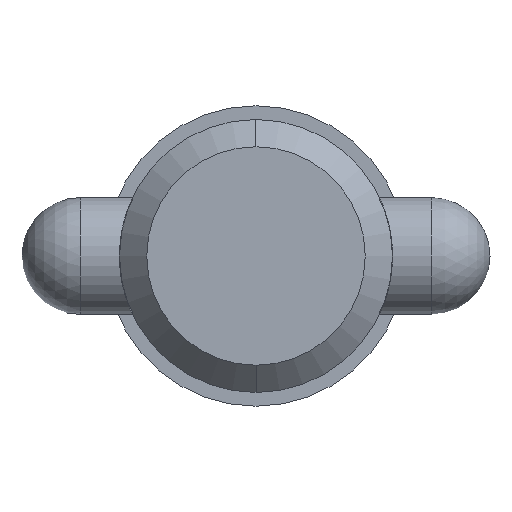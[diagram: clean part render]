
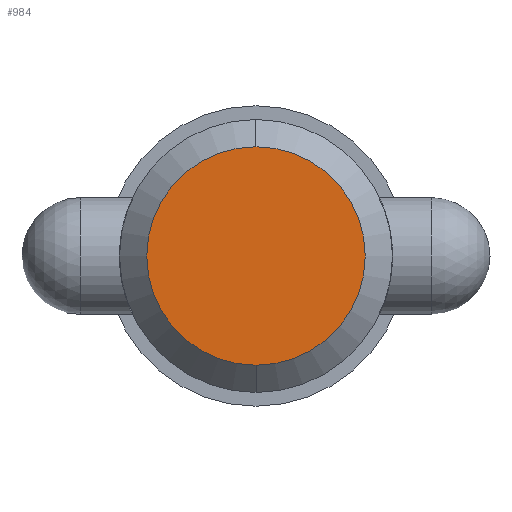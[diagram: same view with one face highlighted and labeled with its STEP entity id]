
A CAD part, left-side view. The second image highlights one B-rep face of the part: STEP entity #984.
In plain terms, the highlighted planar face has unit normal (-1, 0, 0).
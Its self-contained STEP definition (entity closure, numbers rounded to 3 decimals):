
#20 = PLANE ( 'NONE',  #342 ) ;
#46 = VERTEX_POINT ( 'NONE', #656 ) ;
#57 = ORIENTED_EDGE ( 'NONE', *, *, #931, .F. ) ;
#264 = ORIENTED_EDGE ( 'NONE', *, *, #411, .F. ) ;
#291 = CIRCLE ( 'NONE', #1030, 8.892 ) ;
#342 = AXIS2_PLACEMENT_3D ( 'NONE', #446, #769, #905 ) ;
#360 = CIRCLE ( 'NONE', #925, 8.892 ) ;
#411 = EDGE_CURVE ( 'NONE', #46, #415, #291, .T. ) ;
#415 = VERTEX_POINT ( 'NONE', #729 ) ;
#446 = CARTESIAN_POINT ( 'NONE',  ( 0., 0., 0. ) ) ;
#510 = FACE_OUTER_BOUND ( 'NONE', #768, .T. ) ;
#523 = DIRECTION ( 'NONE',  ( 0., 0., -1. ) ) ;
#553 = DIRECTION ( 'NONE',  ( 0., 0., -1. ) ) ;
#598 = DIRECTION ( 'NONE',  ( 1., 0., 0. ) ) ;
#635 = CARTESIAN_POINT ( 'NONE',  ( 0., 0., 0. ) ) ;
#656 = CARTESIAN_POINT ( 'NONE',  ( 0., 0., -8.892 ) ) ;
#729 = CARTESIAN_POINT ( 'NONE',  ( 0., 0., 8.892 ) ) ;
#756 = CARTESIAN_POINT ( 'NONE',  ( 0., 0., 0. ) ) ;
#768 = EDGE_LOOP ( 'NONE', ( #264, #57 ) ) ;
#769 = DIRECTION ( 'NONE',  ( -1., 0., 0. ) ) ;
#796 = DIRECTION ( 'NONE',  ( 1., 0., 0. ) ) ;
#905 = DIRECTION ( 'NONE',  ( 0., 0., 1. ) ) ;
#925 = AXIS2_PLACEMENT_3D ( 'NONE', #756, #598, #523 ) ;
#931 = EDGE_CURVE ( 'NONE', #415, #46, #360, .T. ) ;
#984 = ADVANCED_FACE ( 'NONE', ( #510 ), #20, .T. ) ;
#1030 = AXIS2_PLACEMENT_3D ( 'NONE', #635, #796, #553 ) ;
